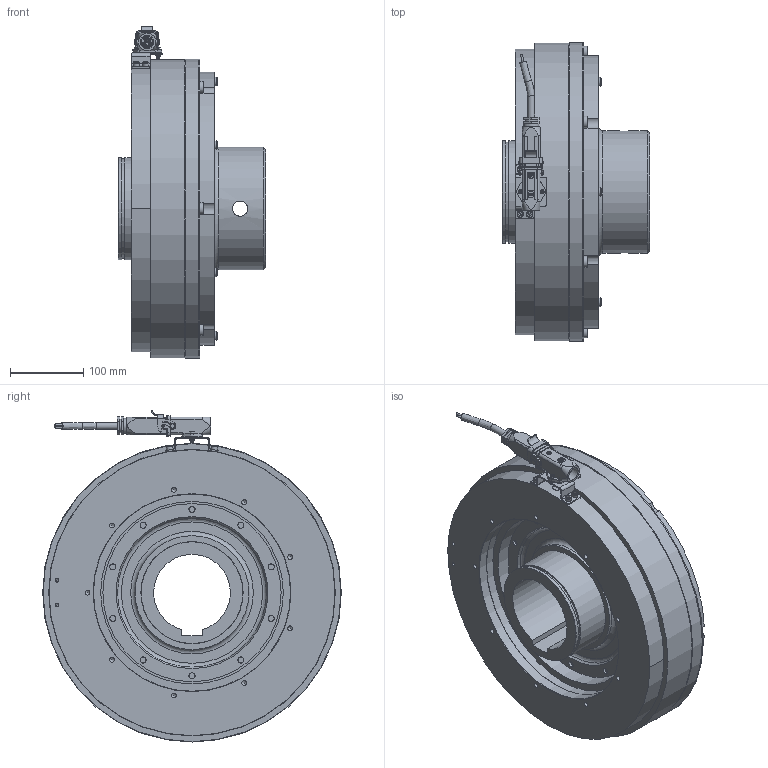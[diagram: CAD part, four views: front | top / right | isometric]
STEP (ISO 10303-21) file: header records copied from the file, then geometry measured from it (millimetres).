
FILE_DESCRIPTION(/* description */ (''),/* implementation_level */ '2;1');
FILE_NAME(/* name */ 'X:\INVENTOR\DISEGNI\08_Freni_Friz_Elettmag_Monodisco\08_26 EMSL_DF\EMSL_DF STEP\08_26_400_22 EMSL400_DF-BM-ME_S@STEP.stp',/* time_stamp */ '2018-04-24T09:08:52+02:00',/* author */ ('stefano'),/* organization */ (''),/* preprocessor_version */ 'ST-DEVELOPER v17',/* originating_system */ 'Autodesk Inventor 2018',/* authorisation */ '');
FILE_SCHEMA (('AUTOMOTIVE_DESIGN { 1 0 10303 214 3 1 1 }'));
Length unit declared in the file: millimetre
Products named in the file (1): 08_26_400_22 EMSL400_DF-BM-ME - Spina_Substitute_1
Bounding box: 201.5 x 409 x 454.6 mm (x, y, z)
Volume: 10192847.2 mm3; surface area: 1278840.9 mm2
Topology: 4 solids, 4 shells, 1748 faces, 4901 edges, 3305 vertices
Faces by surface type: plane 1021, cylinder 549, cone 115, torus 39, bspline 21, sphere 3
Full cylindrical faces by diameter (mm): 0.35 x1, 0.491 x1, 0.753 x1, 0.95 x1, 0.986 x1, 1.05 x1, 2.5 x2, 3 x16, 3.2 x1, 3.25 x2, 3.59 x3, 4 x3, 4.675 x2, 4.8 x2, 4.917 x2, 5 x4, 5.25 x4, 5.5 x2, 6 x6, 6.2 x1, 6.647 x9, 7 x1, 7.9 x2, 8.2 x2, 8.376 x10, 8.5 x4, 9.5 x2, 12 x6, 13.5 x2, 16 x24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
Entity records: 59975 total; most frequent: CARTESIAN_POINT 11716, DIRECTION 9795, ORIENTED_EDGE 9732, EDGE_CURVE 4866, AXIS2_PLACEMENT_3D 3487, VERTEX_POINT 3305, LINE 2821, VECTOR 2821
